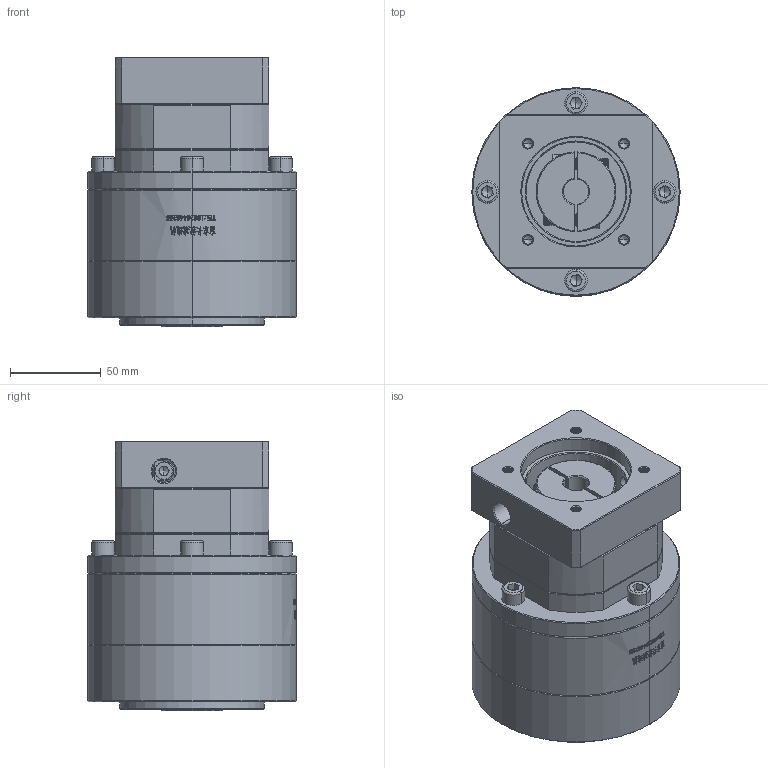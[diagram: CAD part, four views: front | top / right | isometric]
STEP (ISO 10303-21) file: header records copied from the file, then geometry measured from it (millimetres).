
FILE_DESCRIPTION (( 'STEP AP214' ), '1' );
FILE_NAME ('ZE120A-K25-L2-14-60-75-M6.step', '2023-03-13T06:53:12', ( '' ), ( '' ), 'SwSTEP 2.0', 'SolidWorks 2016', '' );
FILE_SCHEMA (( 'AUTOMOTIVE_DESIGN' ));
Length unit declared in the file: millimetre
Products named in the file (1): ZE120A-K25-L2-14-60-75-M6
Bounding box: 115 x 115 x 149 mm (x, y, z)
Volume: 1183775.5 mm3; surface area: 119530 mm2
Topology: 5 solids, 6 shells, 1974 faces, 5196 edges, 3313 vertices
Faces by surface type: plane 855, cylinder 471, bspline 324, cone 309, torus 15
Entity records: 111403 total; most frequent: CARTESIAN_POINT 45365, ORIENTED_EDGE 10320, DIRECTION 7762, EDGE_CURVE 5160, VERTEX_POINT 3313, LINE 2750, VECTOR 2750, AXIS2_PLACEMENT_3D 2506
